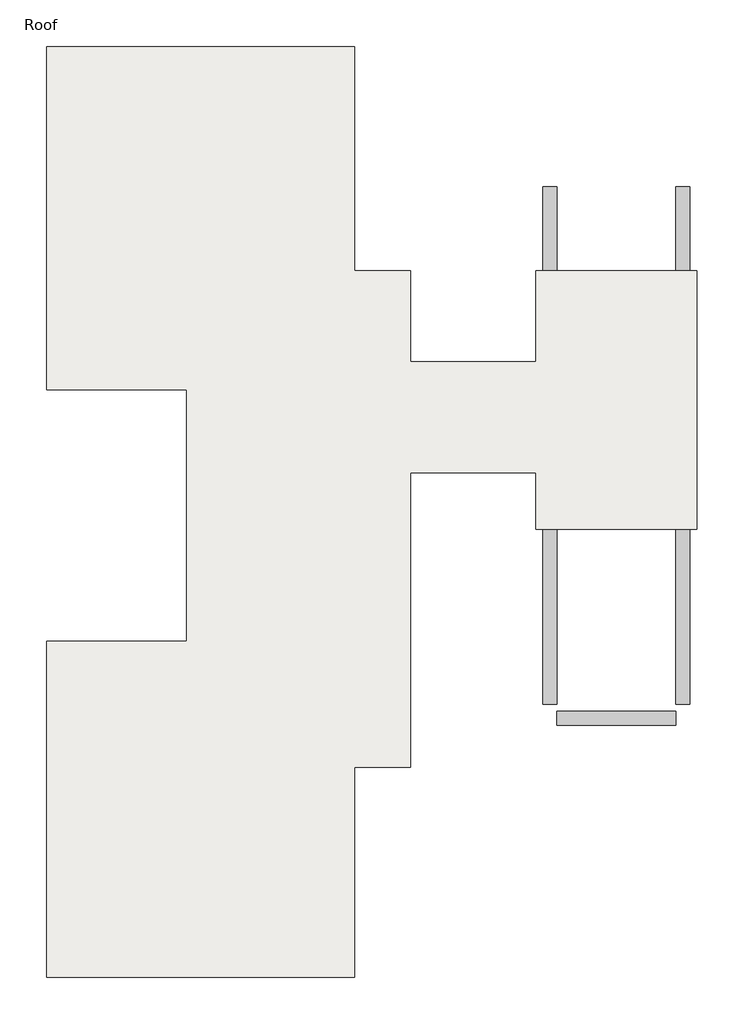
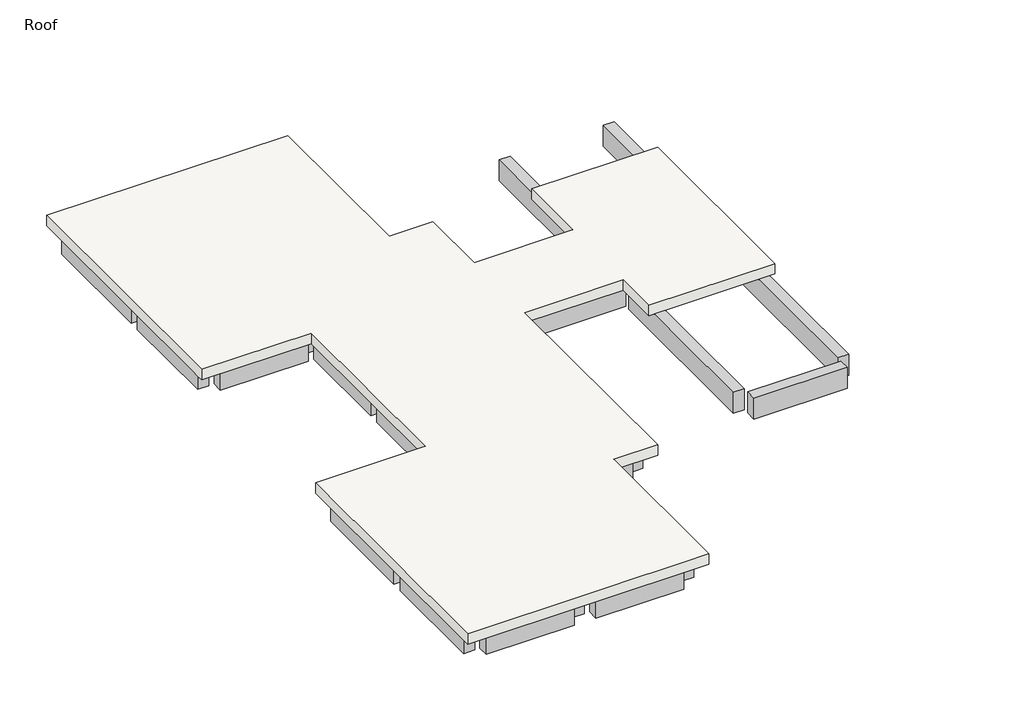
# One storey: 45 beams, 1 slab.
"""IFC4 building model written with IfcOpenShell, lengths in millimetres."""

import ifcopenshell
import ifcopenshell.guid

model = None  # the IFC model being written
_history = None  # IfcOwnerHistory: only IFC2X3 demands one
_inside = {}  # id of a spatial element -> (the spatial element, [elements in it])
_under = {}  # id of a project, library or spatial element -> (it, [spatial elements below it])
_declared = {}  # id of a project -> (the project, [libraries it declares])
_typed = {}  # id of a type object -> (the type object, [elements of that type])
_made_of = {}  # id of a material, layer set ... -> (it, [elements and type objects made of it])


def new_model(schema):
    """Start an empty IFC model of exactly this schema.

    Asked for "IFC4X3", IfcOpenShell would pick the latest addendum, in which some entities
    have other attributes; the version numbers below select the first issue.
    IFC2X3 requires an IfcOwnerHistory on every rooted entity: one is made here for all.
    """
    global model, _history
    if schema == "IFC4X3":
        model = ifcopenshell.file(schema_version=(4, 3, 0, 0))
    else:
        model = ifcopenshell.file(schema=schema)
    _inside.clear()
    _under.clear()
    _declared.clear()
    _typed.clear()
    _made_of.clear()
    _history = None
    if model.schema == "IFC2X3":
        org = make("IfcOrganization", Name="unknown")
        user = make(
            "IfcPersonAndOrganization",
            ThePerson=make("IfcPerson", FamilyName="unknown"),
            TheOrganization=org,
        )
        app = make(
            "IfcApplication",
            ApplicationDeveloper=org,
            Version="unknown",
            ApplicationFullName="unknown",
            ApplicationIdentifier="unknown",
        )
        _history = make(
            "IfcOwnerHistory",
            OwningUser=user,
            OwningApplication=app,
            ChangeAction="ADDED",
            CreationDate=0,
        )
    return model


def make(cls, **values):
    """One entity of the class cls with the attributes given. An attribute that is None is left unset."""
    return model.create_entity(
        cls, **{name: value for name, value in values.items() if value is not None}
    )


def rooted(cls, **values):
    """An entity with a GlobalId (a new one), such as an element, a storey or a relation."""
    return make(cls, GlobalId=ifcopenshell.guid.new(), OwnerHistory=_history, **values)


def si_unit(unit_type, name, prefix=None):
    """IfcSIUnit, for example si_unit("LENGTHUNIT", "METRE", prefix="MILLI")."""
    return make("IfcSIUnit", UnitType=unit_type, Prefix=prefix, Name=name)


def assignment(units):
    """IfcUnitAssignment: the units of a project."""
    return None if units is None else make("IfcUnitAssignment", Units=units)


def point(xyz):
    """IfcCartesianPoint."""
    return None if xyz is None else make("IfcCartesianPoint", Coordinates=xyz)


def direction(xyz):
    """IfcDirection."""
    return None if xyz is None else make("IfcDirection", DirectionRatios=xyz)


def frame(location, z_axis=None, x_axis=None):
    """IfcAxis2Placement3D, a coordinate frame: its origin and axes. An axis left out is left unset."""
    return make(
        "IfcAxis2Placement3D",
        Location=point(location),
        Axis=direction(z_axis),
        RefDirection=direction(x_axis),
    )


def origin():
    """The frame at (0, 0, 0) with its axes left unset."""
    return frame((0.0, 0.0, 0.0))


def place(relative_to, where):
    """IfcLocalPlacement: puts the frame where relative to a parent placement (None: the world)."""
    return make(
        "IfcLocalPlacement", PlacementRelTo=relative_to, RelativePlacement=where
    )


def context(
    kind, dimensions, precision=None, world=None, true_north=None, identifier=None
):
    """IfcGeometricRepresentationContext, for example the 3D "Model" context."""
    return make(
        "IfcGeometricRepresentationContext",
        ContextIdentifier=identifier,
        ContextType=kind,
        CoordinateSpaceDimension=dimensions,
        Precision=precision,
        WorldCoordinateSystem=world,
        TrueNorth=true_north,
    )


def project(units=None, contexts=None):
    """IfcProject with its units and contexts."""
    return rooted(
        "IfcProject",
        Name="project",
        RepresentationContexts=contexts,
        UnitsInContext=assignment(units),
    )


def spatial(cls, under=None, at=None, **own):
    """A site, building, storey or space (cls), placed at a placement, below another one or the project."""
    s = rooted(cls, ObjectPlacement=at, **own)
    if under is not None:
        _under.setdefault(under.id(), (under, []))[1].append(s)
    return s


def polyline(points):
    """IfcPolyline through the points."""
    return make("IfcPolyline", Points=[point(p) for p in points])


def outline(outer, holes=None, kind="AREA"):
    """IfcArbitraryClosedProfileDef: a profile drawn as a closed curve; with holes, ...WithVoids."""
    if holes is None:
        return make("IfcArbitraryClosedProfileDef", ProfileType=kind, OuterCurve=outer)
    return make(
        "IfcArbitraryProfileDefWithVoids",
        ProfileType=kind,
        OuterCurve=outer,
        InnerCurves=holes,
    )


def extrude(swept, where, along, depth):
    """IfcExtrudedAreaSolid: the profile swept, set in the frame where, extruded along a direction by depth."""
    return make(
        "IfcExtrudedAreaSolid",
        SweptArea=swept,
        Position=where,
        ExtrudedDirection=direction(along),
        Depth=depth,
    )


def faces_of(points, faces, orient=None, outer=None):
    """IfcFace entities. A face is a list of loops; a loop is a list of indices into points, from 0.

    orient and outer hold one flag for each loop. By default every Orientation is true, the
    first loop of a face is its IfcFaceOuterBound and the others are IfcFaceBound.
    """
    made = []
    for i, loops in enumerate(faces):
        bounds = []
        for j, loop in enumerate(loops):
            is_outer = j == 0 if outer is None else outer[i][j]
            bounds.append(
                make(
                    "IfcFaceOuterBound" if is_outer else "IfcFaceBound",
                    Bound=make("IfcPolyLoop", Polygon=[points[k] for k in loop]),
                    Orientation=True if orient is None else orient[i][j],
                )
            )
        made.append(make("IfcFace", Bounds=bounds))
    return made


def faceted_brep(points, faces, orient=None, outer=None, voids=None):
    """IfcFacetedBrep: a solid bounded by flat faces; with voids (closed shells), ...WithVoids."""
    shared = [point(p) for p in points]
    hull = make("IfcClosedShell", CfsFaces=faces_of(shared, faces, orient, outer))
    if voids is None:
        return make("IfcFacetedBrep", Outer=hull)
    return make(
        "IfcFacetedBrepWithVoids",
        Outer=hull,
        Voids=[
            make(cls, CfsFaces=faces_of(shared, fs, o, b)) for cls, fs, o, b in voids
        ],
    )


def shape(context_of_items, identifier, shape_type, items):
    """IfcShapeRepresentation: the items that make up one representation, for example the "Body"."""
    return make(
        "IfcShapeRepresentation",
        ContextOfItems=context_of_items,
        RepresentationIdentifier=identifier,
        RepresentationType=shape_type,
        Items=items,
    )


def made_of(thing, what):
    """Note that an element or type object is made of a material, layer set ...; save() writes the relation."""
    if what is not None:
        _made_of.setdefault(what.id(), (what, []))[1].append(thing)
    return thing


def element(
    cls,
    number,
    at=None,
    inside=None,
    cuts=None,
    type_object=None,
    material=None,
    context=None,
    identifier="Body",
    shape_type=None,
    held_by="IfcProductDefinitionShape",
    body=None,
    shapes=None,
    **own,
):
    """One element of the class cls, such as IfcWall. Its Tag is "e" and its number.

    at: its placement. inside: the storey or other place that contains it. cuts: it is an
    opening in that element (IfcRelVoidsElement). A single representation is given by context,
    identifier, shape_type and body (its items); several are given by shapes. held_by: the class
    of the entity that holds the representations. save() writes the other relations.
    """
    e = rooted(cls, Tag="e%d" % number, ObjectPlacement=at, **own)
    if body is not None:
        shapes = [shape(context, identifier, shape_type, body)]
    if shapes is not None:
        e.Representation = make(held_by, Representations=shapes)
    if inside is not None:
        _inside.setdefault(inside.id(), (inside, []))[1].append(e)
    if cuts is not None:
        rooted(
            "IfcRelVoidsElement", RelatingBuildingElement=cuts, RelatedOpeningElement=e
        )
    if type_object is not None:
        _typed.setdefault(type_object.id(), (type_object, []))[1].append(e)
    return made_of(e, material)


def aggregate(whole, parts):
    """IfcRelAggregates: a whole, such as a stair, and the parts it consists of."""
    return rooted("IfcRelAggregates", RelatingObject=whole, RelatedObjects=parts)


def save(model, path):
    """Write the relations noted so far, then the file.

    IfcRelAggregates (storeys below a building ...), IfcRelContainedInSpatialStructure (elements
    in a storey), IfcRelDefinesByType, IfcRelAssociatesMaterial and IfcRelDeclares: one each for
    every whole, place, type object, material and project.
    """
    for whole, parts in _under.values():
        aggregate(whole, parts)
    for where, things in _inside.values():
        rooted(
            "IfcRelContainedInSpatialStructure",
            RelatedElements=things,
            RelatingStructure=where,
        )
    for kind, things in _typed.values():
        rooted("IfcRelDefinesByType", RelatedObjects=things, RelatingType=kind)
    for what, things in _made_of.values():
        rooted("IfcRelAssociatesMaterial", RelatedObjects=things, RelatingMaterial=what)
    for by, libraries in _declared.values():
        rooted("IfcRelDeclares", RelatingContext=by, RelatedDefinitions=libraries)
    model.write(path)


model = new_model("IFC4")

# Units and contexts
model_context = context("Model", 3, world=origin())
ifc_project = project(units=[si_unit("LENGTHUNIT", "METRE", prefix="MILLI")], contexts=[model_context])

# Site, building, storey
site = spatial("IfcSite", under=ifc_project)
building = spatial("IfcBuilding", under=site)
storey = spatial("IfcBuildingStorey", under=building, Name="Roof", Elevation=7620.0)

# Beams
placement = place(None, origin())
element("IfcBeam", 1, ObjectType="Concrete-Rectangular Beam : 12 x 24", at=placement, inside=storey, context=model_context, shape_type="SweptSolid", body=[
    extrude(outline(polyline([(-15067.9554735, 14342.1867088), (-15067.9554735, 14646.9867088), (-12629.5554735, 14646.9867088), (-12629.5554735, 14342.1867088), (-15067.9554735, 14342.1867088)])), frame((0.0, 0.0, 6705.6), z_axis=(0.0, 0.0, 1.0), x_axis=(1.0, 0.0, 0.0)), (0.0, 0.0, 1.0), 609.6),
])
element("IfcBeam", 2, ObjectType="Concrete-Rectangular Beam : 12 x 24", at=placement, inside=storey, context=model_context, shape_type="SweptSolid", body=[
    extrude(outline(polyline([(-12019.9554735, 14342.1867088), (-12019.9554735, 14646.9867088), (-9581.5554735, 14646.9867088), (-9581.5554735, 14342.1867088), (-12019.9554735, 14342.1867088)])), frame((0.0, 0.0, 6705.6), z_axis=(0.0, 0.0, 1.0), x_axis=(1.0, 0.0, 0.0)), (0.0, 0.0, 1.0), 609.6),
])
element("IfcBeam", 3, ObjectType="Concrete-Rectangular Beam : 12 x 24", at=placement, inside=storey, context=model_context, shape_type="SweptSolid", body=[
    extrude(outline(polyline([(-9429.1554735, 14342.1867088), (-9124.3554735, 14342.1867088), (-9124.3554735, 10989.3867088), (-9429.1554735, 10989.3867088), (-9429.1554735, 14342.1867088)])), frame((0.0, 0.0, 6705.6), z_axis=(0.0, 0.0, 1.0), x_axis=(1.0, 0.0, 0.0)), (0.0, 0.0, 1.0), 609.6),
])
element("IfcBeam", 4, ObjectType="Concrete-Rectangular Beam : 12 x 24", at=placement, inside=storey, context=model_context, shape_type="SweptSolid", body=[
    extrude(outline(polyline([(-7905.1554735, 7788.9867088), (-8209.9554735, 7788.9867088), (-8209.9554735, 9465.3867088), (-7905.1554735, 9465.3867088), (-7905.1554735, 7788.9867088)])), frame((0.0, 0.0, 6705.6), z_axis=(0.0, 0.0, 1.0), x_axis=(1.0, 0.0, 0.0)), (0.0, 0.0, 1.0), 609.6),
])
element("IfcBeam", 5, ObjectType="Concrete-Rectangular Beam : 12 x 24", at=placement, inside=storey, context=model_context, shape_type="Brep", body=[
    faceted_brep([(-9429.1554735, 9770.1867088, 7315.2), (-9429.1554735, 9465.3867088, 7315.2), (-8362.3554735, 9465.3867088, 7315.2), (-8362.3554735, 9770.1867088, 7315.2), (-9124.3554735, 9770.1867088, 7315.2), (-9429.1554735, 9770.1867088, 6705.6), (-8362.3554735, 9770.1867088, 6705.6), (-9124.3554735, 9770.1867088, 6705.6), (-9429.1554735, 9465.3867088, 6705.6), (-8362.3554735, 9465.3867088, 6705.6)], [[[0, 1, 2, 3, 4]], [[5, 0, 4, 3, 6, 7]], [[8, 5, 7, 6, 9]], [[1, 8, 9, 2]], [[3, 2, 9, 6]], [[1, 0, 5, 8]]]),
])
element("IfcBeam", 6, ObjectType="Concrete-Rectangular Beam : 12 x 24", at=placement, inside=storey, context=model_context, shape_type="Brep", body=[
    faceted_brep([(-7905.1554735, 7484.1867088, 7315.2), (-8209.9554735, 7484.1867088, 7315.2), (-8209.9554735, 4740.9867088, 7315.2), (-7905.1554735, 4740.9867088, 7315.2), (-7905.1554735, 5655.3867088, 7315.2), (-7905.1554735, 5960.1867088, 7315.2), (-8209.9554735, 7484.1867088, 6705.6), (-8209.9554735, 4740.9867088, 6705.6), (-7905.1554735, 7484.1867088, 6705.6), (-7905.1554735, 5960.1867088, 6705.6), (-7905.1554735, 5655.3867088, 6705.6), (-7905.1554735, 4740.9867088, 6705.6)], [[[0, 1, 2, 3, 4, 5]], [[1, 6, 7, 2]], [[6, 8, 9, 10, 11, 7]], [[8, 0, 5, 4, 3, 11, 10, 9]], [[6, 1, 0, 8]], [[3, 2, 7, 11]]]),
])
element("IfcBeam", 7, ObjectType="Concrete-Rectangular Beam : 12 x 24", at=placement, inside=storey, context=model_context, shape_type="SweptSolid", body=[
    extrude(outline(polyline([(-8209.9554735, 4436.1867088), (-7905.1554735, 4436.1867088), (-7905.1554735, 1692.9867088), (-8209.9554735, 1692.9867088), (-8209.9554735, 4436.1867088)])), frame((0.0, 0.0, 6705.6), z_axis=(0.0, 0.0, 1.0), x_axis=(1.0, 0.0, 0.0)), (0.0, 0.0, 1.0), 609.6),
])
element("IfcBeam", 8, ObjectType="Concrete-Rectangular Beam : 12 x 24", at=placement, inside=storey, context=model_context, shape_type="SweptSolid", body=[
    extrude(outline(polyline([(-8209.9554735, 1388.1867088), (-7905.1554735, 1388.1867088), (-7905.1554735, -440.6132912), (-8209.9554735, -440.6132912), (-8209.9554735, 1388.1867088)])), frame((0.0, 0.0, 6705.6), z_axis=(0.0, 0.0, 1.0), x_axis=(1.0, 0.0, 0.0)), (0.0, 0.0, 1.0), 609.6),
])
element("IfcBeam", 9, ObjectType="Concrete-Rectangular Beam : 12 x 24", at=placement, inside=storey, context=model_context, shape_type="Brep", body=[
    faceted_brep([(-9429.1554735, -440.6132912, 7315.2), (-9429.1554735, -745.4132912, 7315.2), (-9124.3554735, -745.4132912, 7315.2), (-8362.3554735, -745.4132912, 7315.2), (-8362.3554735, -440.6132912, 7315.2), (-9429.1554735, -440.6132912, 6705.6), (-8362.3554735, -440.6132912, 6705.6), (-9429.1554735, -745.4132912, 6705.6), (-8362.3554735, -745.4132912, 6705.6), (-9124.3554735, -745.4132912, 6705.6)], [[[0, 1, 2, 3, 4]], [[5, 0, 4, 6]], [[7, 5, 6, 8, 9]], [[1, 7, 9, 8, 3, 2]], [[4, 3, 8, 6]], [[1, 0, 5, 7]]]),
])
element("IfcBeam", 10, ObjectType="Concrete-Rectangular Beam : 12 x 24", at=placement, inside=storey, context=model_context, shape_type="SweptSolid", body=[
    extrude(outline(polyline([(-9429.1554735, -745.4132912), (-9124.3554735, -745.4132912), (-9124.3554735, -1659.8132912), (-9429.1554735, -1659.8132912), (-9429.1554735, -745.4132912)])), frame((0.0, 0.0, 6705.6), z_axis=(0.0, 0.0, 1.0), x_axis=(1.0, 0.0, 0.0)), (0.0, 0.0, 1.0), 609.6),
])
element("IfcBeam", 11, ObjectType="Concrete-Rectangular Beam : 12 x 24", at=placement, inside=storey, context=model_context, shape_type="SweptSolid", body=[
    extrude(outline(polyline([(-9429.1554735, -1964.6132912), (-9124.3554735, -1964.6132912), (-9124.3554735, -5012.6132912), (-9429.1554735, -5012.6132912), (-9429.1554735, -1964.6132912)])), frame((0.0, 0.0, 6705.6), z_axis=(0.0, 0.0, 1.0), x_axis=(1.0, 0.0, 0.0)), (0.0, 0.0, 1.0), 609.6),
])
element("IfcBeam", 12, ObjectType="Concrete-Rectangular Beam : 12 x 24", at=placement, inside=storey, context=model_context, shape_type="SweptSolid", body=[
    extrude(outline(polyline([(-12019.9554735, -5317.4132912), (-12019.9554735, -5012.6132912), (-9581.5554735, -5012.6132912), (-9581.5554735, -5317.4132912), (-12019.9554735, -5317.4132912)])), frame((0.0, 0.0, 6705.6), z_axis=(0.0, 0.0, 1.0), x_axis=(1.0, 0.0, 0.0)), (0.0, 0.0, 1.0), 609.6),
])
element("IfcBeam", 13, ObjectType="Concrete-Rectangular Beam : 12 x 24", at=placement, inside=storey, context=model_context, shape_type="SweptSolid", body=[
    extrude(outline(polyline([(-12629.5554735, -5012.6132912), (-12629.5554735, -5317.4132912), (-15067.9554735, -5317.4132912), (-15067.9554735, -5012.6132912), (-12629.5554735, -5012.6132912)])), frame((0.0, 0.0, 6705.6), z_axis=(0.0, 0.0, 1.0), x_axis=(1.0, 0.0, 0.0)), (0.0, 0.0, 1.0), 609.6),
])
element("IfcBeam", 14, ObjectType="Concrete-Rectangular Beam : 12 x 24", at=placement, inside=storey, context=model_context, shape_type="SweptSolid", body=[
    extrude(outline(polyline([(-15220.3554735, -5012.6132912), (-15525.1554735, -5012.6132912), (-15525.1554735, -1964.6132912), (-15220.3554735, -1964.6132912), (-15220.3554735, -5012.6132912)])), frame((0.0, 0.0, 6705.6), z_axis=(0.0, 0.0, 1.0), x_axis=(1.0, 0.0, 0.0)), (0.0, 0.0, 1.0), 609.6),
])
element("IfcBeam", 15, ObjectType="Concrete-Rectangular Beam : 12 x 24", at=placement, inside=storey, context=model_context, shape_type="SweptSolid", body=[
    extrude(outline(polyline([(-15220.3554735, -1659.8132912), (-15525.1554735, -1659.8132912), (-15525.1554735, 1388.1867088), (-15220.3554735, 1388.1867088), (-15220.3554735, -1659.8132912)])), frame((0.0, 0.0, 6705.6), z_axis=(0.0, 0.0, 1.0), x_axis=(1.0, 0.0, 0.0)), (0.0, 0.0, 1.0), 609.6),
])
element("IfcBeam", 16, ObjectType="Concrete-Rectangular Beam : 12 x 24", at=placement, inside=storey, context=model_context, shape_type="SweptSolid", body=[
    extrude(outline(polyline([(-15525.1554735, 14342.1867088), (-15220.3554735, 14342.1867088), (-15220.3554735, 10989.3867088), (-15525.1554735, 10989.3867088), (-15525.1554735, 14342.1867088)])), frame((0.0, 0.0, 6705.6), z_axis=(0.0, 0.0, 1.0), x_axis=(1.0, 0.0, 0.0)), (0.0, 0.0, 1.0), 609.6),
])
element("IfcBeam", 17, ObjectType="Concrete-Rectangular Beam : 12 x 24", at=placement, inside=storey, context=model_context, shape_type="SweptSolid", body=[
    extrude(outline(polyline([(-12477.1554735, 14342.1867088), (-12172.3554735, 14342.1867088), (-12172.3554735, 10989.3867088), (-12477.1554735, 10989.3867088), (-12477.1554735, 14342.1867088)])), frame((0.0, 0.0, 6705.6), z_axis=(0.0, 0.0, 1.0), x_axis=(1.0, 0.0, 0.0)), (0.0, 0.0, 1.0), 609.6),
])
element("IfcBeam", 18, ObjectType="Concrete-Rectangular Beam : 12 x 24", at=placement, inside=storey, context=model_context, shape_type="SweptSolid", body=[
    extrude(outline(polyline([(-15067.9554735, 10684.5867088), (-15067.9554735, 10989.3867088), (-12629.5554735, 10989.3867088), (-12629.5554735, 10684.5867088), (-15067.9554735, 10684.5867088)])), frame((0.0, 0.0, 6705.6), z_axis=(0.0, 0.0, 1.0), x_axis=(1.0, 0.0, 0.0)), (0.0, 0.0, 1.0), 609.6),
])
element("IfcBeam", 19, ObjectType="Concrete-Rectangular Beam : 12 x 24", at=placement, inside=storey, context=model_context, shape_type="SweptSolid", body=[
    extrude(outline(polyline([(-12477.1554735, 10836.9867088), (-12172.3554735, 10836.9867088), (-12172.3554735, 7788.9867088), (-12477.1554735, 7788.9867088), (-12477.1554735, 10836.9867088)])), frame((0.0, 0.0, 6705.6), z_axis=(0.0, 0.0, 1.0), x_axis=(1.0, 0.0, 0.0)), (0.0, 0.0, 1.0), 609.6),
])
element("IfcBeam", 20, ObjectType="Concrete-Rectangular Beam : 12 x 24", at=placement, inside=storey, context=model_context, shape_type="SweptSolid", body=[
    extrude(outline(polyline([(-12477.1554735, 7484.1867088), (-12172.3554735, 7484.1867088), (-12172.3554735, 4740.9867088), (-12477.1554735, 4740.9867088), (-12477.1554735, 7484.1867088)])), frame((0.0, 0.0, 6705.6), z_axis=(0.0, 0.0, 1.0), x_axis=(1.0, 0.0, 0.0)), (0.0, 0.0, 1.0), 609.6),
])
element("IfcBeam", 21, ObjectType="Concrete-Rectangular Beam : 12 x 24", at=placement, inside=storey, context=model_context, shape_type="SweptSolid", body=[
    extrude(outline(polyline([(-12477.1554735, 4436.1867088), (-12172.3554735, 4436.1867088), (-12172.3554735, 1692.9867088), (-12477.1554735, 1692.9867088), (-12477.1554735, 4436.1867088)])), frame((0.0, 0.0, 6705.6), z_axis=(0.0, 0.0, 1.0), x_axis=(1.0, 0.0, 0.0)), (0.0, 0.0, 1.0), 609.6),
])
element("IfcBeam", 22, ObjectType="Concrete-Rectangular Beam : 12 x 24", at=placement, inside=storey, context=model_context, shape_type="SweptSolid", body=[
    extrude(outline(polyline([(-12477.1554735, 1388.1867088), (-12172.3554735, 1388.1867088), (-12172.3554735, -1659.8132912), (-12477.1554735, -1659.8132912), (-12477.1554735, 1388.1867088)])), frame((0.0, 0.0, 6705.6), z_axis=(0.0, 0.0, 1.0), x_axis=(1.0, 0.0, 0.0)), (0.0, 0.0, 1.0), 609.6),
])
element("IfcBeam", 23, ObjectType="Concrete-Rectangular Beam : 12 x 24", at=placement, inside=storey, context=model_context, shape_type="SweptSolid", body=[
    extrude(outline(polyline([(-12172.3554735, -5012.6132912), (-12477.1554735, -5012.6132912), (-12477.1554735, -1964.6132912), (-12172.3554735, -1964.6132912), (-12172.3554735, -5012.6132912)])), frame((0.0, 0.0, 6705.6), z_axis=(0.0, 0.0, 1.0), x_axis=(1.0, 0.0, 0.0)), (0.0, 0.0, 1.0), 609.6),
])
element("IfcBeam", 24, ObjectType="Concrete-Rectangular Beam : 12 x 24", at=placement, inside=storey, context=model_context, shape_type="SweptSolid", body=[
    extrude(outline(polyline([(-15525.1554735, 10684.5867088), (-15220.3554735, 10684.5867088), (-15220.3554735, 7788.9867088), (-15525.1554735, 7788.9867088), (-15525.1554735, 10684.5867088)])), frame((0.0, 0.0, 6705.6), z_axis=(0.0, 0.0, 1.0), x_axis=(1.0, 0.0, 0.0)), (0.0, 0.0, 1.0), 609.6),
])
element("IfcBeam", 25, ObjectType="Concrete-Rectangular Beam : 12 x 24", at=placement, inside=storey, context=model_context, shape_type="SweptSolid", body=[
    extrude(outline(polyline([(-15067.9554735, 7484.1867088), (-15067.9554735, 7788.9867088), (-12629.5554735, 7788.9867088), (-12629.5554735, 7484.1867088), (-15067.9554735, 7484.1867088)])), frame((0.0, 0.0, 6705.6), z_axis=(0.0, 0.0, 1.0), x_axis=(1.0, 0.0, 0.0)), (0.0, 0.0, 1.0), 609.6),
])
element("IfcBeam", 26, ObjectType="Concrete-Rectangular Beam : 12 x 24", at=placement, inside=storey, context=model_context, shape_type="SweptSolid", body=[
    extrude(outline(polyline([(-12019.9554735, 1388.1867088), (-12019.9554735, 1692.9867088), (-8362.3554735, 1692.9867088), (-8362.3554735, 1388.1867088), (-12019.9554735, 1388.1867088)])), frame((0.0, 0.0, 6705.6), z_axis=(0.0, 0.0, 1.0), x_axis=(1.0, 0.0, 0.0)), (0.0, 0.0, 1.0), 609.6),
])
element("IfcBeam", 27, ObjectType="Concrete-Rectangular Beam : 12 x 24", at=placement, inside=storey, context=model_context, shape_type="SweptSolid", body=[
    extrude(outline(polyline([(-4552.3554735, 5655.3867088), (-4552.3554735, 5960.1867088), (-1961.5554735, 5960.1867088), (-1961.5554735, 5655.3867088), (-4552.3554735, 5655.3867088)])), frame((0.0, 0.0, 6705.6), z_axis=(0.0, 0.0, 1.0), x_axis=(1.0, 0.0, 0.0)), (0.0, 0.0, 1.0), 609.6),
])
element("IfcBeam", 28, ObjectType="Concrete-Rectangular Beam : 12 x 24", at=placement, inside=storey, context=model_context, shape_type="SweptSolid", body=[
    extrude(outline(polyline([(-4857.1554735, 7788.9867088), (-4857.1554735, 7484.1867088), (-7752.7554735, 7484.1867088), (-7752.7554735, 7788.9867088), (-4857.1554735, 7788.9867088)])), frame((0.0, 0.0, 6705.6), z_axis=(0.0, 0.0, 1.0), x_axis=(1.0, 0.0, 0.0)), (0.0, 0.0, 1.0), 609.6),
])
element("IfcBeam", 29, ObjectType="Concrete-Rectangular Beam : 12 x 24", at=placement, inside=storey, context=model_context, shape_type="SweptSolid", body=[
    extrude(outline(polyline([(-4857.1554735, 5960.1867088), (-4857.1554735, 5655.3867088), (-7905.1554735, 5655.3867088), (-7905.1554735, 5960.1867088), (-4857.1554735, 5960.1867088)])), frame((0.0, 0.0, 6705.6), z_axis=(0.0, 0.0, 1.0), x_axis=(1.0, 0.0, 0.0)), (0.0, 0.0, 1.0), 609.6),
])
element("IfcBeam", 30, ObjectType="Concrete-Rectangular Beam : 12 x 24", at=placement, inside=storey, context=model_context, shape_type="SweptSolid", body=[
    extrude(outline(polyline([(-4552.3554735, 7484.1867088), (-4552.3554735, 7788.9867088), (-1961.5554735, 7788.9867088), (-1961.5554735, 7484.1867088), (-4552.3554735, 7484.1867088)])), frame((0.0, 0.0, 6705.6), z_axis=(0.0, 0.0, 1.0), x_axis=(1.0, 0.0, 0.0)), (0.0, 0.0, 1.0), 609.6),
])
element("IfcBeam", 31, ObjectType="Concrete-Rectangular Beam : 12 x 24", at=placement, inside=storey, context=model_context, shape_type="SweptSolid", body=[
    extrude(outline(polyline([(-12477.1554735, 10684.5867088), (-12172.3554735, 10684.5867088), (-12172.3554735, 7788.9867088), (-12477.1554735, 7788.9867088), (-12477.1554735, 10684.5867088)])), frame((0.0, 0.0, 6705.6), z_axis=(0.0, 0.0, 1.0), x_axis=(1.0, 0.0, 0.0)), (0.0, 0.0, 1.0), 609.6),
])
element("IfcBeam", 32, ObjectType="Concrete-Rectangular Beam : 12 x 24", at=placement, inside=storey, context=model_context, shape_type="SweptSolid", body=[
    extrude(outline(polyline([(-12019.9554735, 10684.5867088), (-12019.9554735, 10989.3867088), (-9581.5554735, 10989.3867088), (-9581.5554735, 10684.5867088), (-12019.9554735, 10684.5867088)])), frame((0.0, 0.0, 6705.6), z_axis=(0.0, 0.0, 1.0), x_axis=(1.0, 0.0, 0.0)), (0.0, 0.0, 1.0), 609.6),
])
element("IfcBeam", 33, ObjectType="Concrete-Rectangular Beam : 12 x 24", at=placement, inside=storey, context=model_context, shape_type="SweptSolid", body=[
    extrude(outline(polyline([(-12629.5554735, -1659.8132912), (-12629.5554735, -1964.6132912), (-15067.9554735, -1964.6132912), (-15067.9554735, -1659.8132912), (-12629.5554735, -1659.8132912)])), frame((0.0, 0.0, 6705.6), z_axis=(0.0, 0.0, 1.0), x_axis=(1.0, 0.0, 0.0)), (0.0, 0.0, 1.0), 609.6),
])
element("IfcBeam", 34, ObjectType="Concrete-Rectangular Beam : 12 x 24", at=placement, inside=storey, context=model_context, shape_type="SweptSolid", body=[
    extrude(outline(polyline([(-12629.5554735, 1692.9867088), (-12629.5554735, 1388.1867088), (-15067.9554735, 1388.1867088), (-15067.9554735, 1692.9867088), (-12629.5554735, 1692.9867088)])), frame((0.0, 0.0, 6705.6), z_axis=(0.0, 0.0, 1.0), x_axis=(1.0, 0.0, 0.0)), (0.0, 0.0, 1.0), 609.6),
])
element("IfcBeam", 35, ObjectType="Concrete-Rectangular Beam : 12 x 24", at=placement, inside=storey, context=model_context, shape_type="SweptSolid", body=[
    extrude(outline(polyline([(-12019.9554735, -1964.6132912), (-12019.9554735, -1659.8132912), (-9581.5554735, -1659.8132912), (-9581.5554735, -1964.6132912), (-12019.9554735, -1964.6132912)])), frame((0.0, 0.0, 6705.6), z_axis=(0.0, 0.0, 1.0), x_axis=(1.0, 0.0, 0.0)), (0.0, 0.0, 1.0), 609.6),
])
element("IfcBeam", 36, ObjectType="Concrete-Rectangular Beam : 12 x 24", at=placement, inside=storey, context=model_context, shape_type="SweptSolid", body=[
    extrude(outline(polyline([(-9124.3554735, 9770.1867088), (-9429.1554735, 9770.1867088), (-9429.1554735, 10684.5867088), (-9124.3554735, 10684.5867088), (-9124.3554735, 9770.1867088)])), frame((0.0, 0.0, 6705.6), z_axis=(0.0, 0.0, 1.0), x_axis=(1.0, 0.0, 0.0)), (0.0, 0.0, 1.0), 609.6),
])
element("IfcBeam", 37, ObjectType="Concrete-Rectangular Beam : 12 x 24", at=placement, inside=storey, context=model_context, shape_type="SweptSolid", body=[
    extrude(outline(polyline([(-8362.3554735, 7788.9867088), (-8362.3554735, 7484.1867088), (-12019.9554735, 7484.1867088), (-12019.9554735, 7788.9867088), (-8362.3554735, 7788.9867088)])), frame((0.0, 0.0, 6705.6), z_axis=(0.0, 0.0, 1.0), x_axis=(1.0, 0.0, 0.0)), (0.0, 0.0, 1.0), 609.6),
])
element("IfcBeam", 38, ObjectType="Concrete-Rectangular Beam : 12 x 24", at=placement, inside=storey, context=model_context, shape_type="SweptSolid", body=[
    extrude(outline(polyline([(-12019.9554735, 4436.1867088), (-12019.9554735, 4740.9867088), (-8362.3554735, 4740.9867088), (-8362.3554735, 4436.1867088), (-12019.9554735, 4436.1867088)])), frame((0.0, 0.0, 6705.6), z_axis=(0.0, 0.0, 1.0), x_axis=(1.0, 0.0, 0.0)), (0.0, 0.0, 1.0), 609.6),
])
element("IfcBeam", 39, ObjectType="Concrete-Rectangular Beam : 12 x 24", at=placement, inside=storey, context=model_context, shape_type="SweptSolid", body=[
    extrude(outline(polyline([(-4857.1554735, 5502.9867088), (-4552.3554735, 5502.9867088), (-4552.3554735, 473.7867088), (-4857.1554735, 473.7867088), (-4857.1554735, 5502.9867088)])), frame((0.0, 0.0, 6705.6), z_axis=(0.0, 0.0, 1.0), x_axis=(1.0, 0.0, 0.0)), (0.0, 0.0, 1.0), 609.6),
])
element("IfcBeam", 40, ObjectType="Concrete-Rectangular Beam : 12 x 24", at=placement, inside=storey, context=model_context, shape_type="SweptSolid", body=[
    extrude(outline(polyline([(-4552.3554735, 16.5867088), (-4552.3554735, 321.3867088), (-1961.5554735, 321.3867088), (-1961.5554735, 16.5867088), (-4552.3554735, 16.5867088)])), frame((0.0, 0.0, 6705.6), z_axis=(0.0, 0.0, 1.0), x_axis=(1.0, 0.0, 0.0)), (0.0, 0.0, 1.0), 609.6),
])
element("IfcBeam", 41, ObjectType="Concrete-Rectangular Beam : 12 x 24", at=placement, inside=storey, context=model_context, shape_type="SweptSolid", body=[
    extrude(outline(polyline([(-1656.7554735, 473.7867088), (-1961.5554735, 473.7867088), (-1961.5554735, 5502.9867088), (-1656.7554735, 5502.9867088), (-1656.7554735, 473.7867088)])), frame((0.0, 0.0, 6705.6), z_axis=(0.0, 0.0, 1.0), x_axis=(1.0, 0.0, 0.0)), (0.0, 0.0, 1.0), 609.6),
])
element("IfcBeam", 42, ObjectType="Concrete-Rectangular Beam : 12 x 24", at=placement, inside=storey, context=model_context, shape_type="SweptSolid", body=[
    extrude(outline(polyline([(-4857.1554735, 11751.3867088), (-4552.3554735, 11751.3867088), (-4552.3554735, 7941.3867088), (-4857.1554735, 7941.3867088), (-4857.1554735, 11751.3867088)])), frame((0.0, 0.0, 6705.6), z_axis=(0.0, 0.0, 1.0), x_axis=(1.0, 0.0, 0.0)), (0.0, 0.0, 1.0), 609.6),
])
element("IfcBeam", 43, ObjectType="Concrete-Rectangular Beam : 12 x 24", at=placement, inside=storey, context=model_context, shape_type="SweptSolid", body=[
    extrude(outline(polyline([(-1961.5554735, 11751.3867088), (-1656.7554735, 11751.3867088), (-1656.7554735, 7941.3867088), (-1961.5554735, 7941.3867088), (-1961.5554735, 11751.3867088)])), frame((0.0, 0.0, 6705.6), z_axis=(0.0, 0.0, 1.0), x_axis=(1.0, 0.0, 0.0)), (0.0, 0.0, 1.0), 609.6),
])
element("IfcBeam", 44, ObjectType="Concrete-Rectangular Beam : 12 x 24", at=placement, inside=storey, context=model_context, shape_type="SweptSolid", body=[
    extrude(outline(polyline([(-4857.1554735, 7331.7867088), (-4552.3554735, 7331.7867088), (-4552.3554735, 6112.5867088), (-4857.1554735, 6112.5867088), (-4857.1554735, 7331.7867088)])), frame((0.0, 0.0, 6705.6), z_axis=(0.0, 0.0, 1.0), x_axis=(1.0, 0.0, 0.0)), (0.0, 0.0, 1.0), 609.6),
])
element("IfcBeam", 45, ObjectType="Concrete-Rectangular Beam : 12 x 24", at=placement, inside=storey, context=model_context, shape_type="SweptSolid", body=[
    extrude(outline(polyline([(-1961.5554735, 7331.7867088), (-1656.7554735, 7331.7867088), (-1656.7554735, 6112.5867088), (-1961.5554735, 6112.5867088), (-1961.5554735, 7331.7867088)])), frame((0.0, 0.0, 6705.6), z_axis=(0.0, 0.0, 1.0), x_axis=(1.0, 0.0, 0.0)), (0.0, 0.0, 1.0), 609.6),
])

# Slab
element("IfcSlab", 46, ObjectType="Generic - 12\"", at=placement, inside=storey, context=model_context, shape_type="Brep", body=[
    faceted_brep([(-8971.9554735, 14799.3867088, 7315.2), (-8971.9554735, 14646.9867088, 7315.2), (-8971.9554735, 14342.1867088, 7315.2), (-8971.9554735, 10989.3867088, 7315.2), (-8971.9554735, 10684.5867088, 7315.2), (-8971.9554735, 9922.5867088, 7315.2), (-7752.7554735, 9922.5867088, 7315.2), (-7752.7554735, 9770.1867088, 7315.2), (-7752.7554735, 9465.3867088, 7315.2), (-7752.7554735, 7941.3867088, 7315.2), (-5009.5554735, 7941.3867088, 7315.2), (-5009.5554735, 9922.5867088, 7315.2), (-1504.3554735, 9922.5867088, 7315.2), (-1504.3554735, 4283.7867088, 7315.2), (-5009.5554735, 4283.7867088, 7315.2), (-5009.5554735, 5516.5265407, 7315.2), (-7752.7554735, 5516.5265407, 7315.2), (-7752.7554735, 4740.9867088, 7315.2), (-7752.7554735, 4436.1867088, 7315.2), (-7752.7554735, 1692.9867088, 7315.2), (-7752.7554735, 1388.1867088, 7315.2), (-7752.7554735, -440.6132912, 7315.2), (-7752.7554735, -745.4132912, 7315.2), (-7752.7554735, -897.8132912, 7315.2), (-8971.9554735, -897.8132912, 7315.2), (-8971.9554735, -1659.8132912, 7315.2), (-8971.9554735, -1964.6132912, 7315.2), (-8971.9554735, -5012.6132912, 7315.2), (-8971.9554735, -5317.4132912, 7315.2), (-8971.9554735, -5469.8132912, 7315.2), (-15677.5554735, -5469.8132912, 7315.2), (-15677.5554735, -5317.4132912, 7315.2), (-15677.5554735, -5012.6132912, 7315.2), (-15677.5554735, -1964.6132912, 7315.2), (-15677.5554735, -1659.8132912, 7315.2), (-15677.5554735, 1388.1867088, 7315.2), (-15677.5554735, 1692.9867088, 7315.2), (-15677.5554735, 1845.3867088, 7315.2), (-12629.5554735, 1845.3867088, 7315.2), (-12629.5554735, 4436.1867088, 7315.2), (-12629.5554735, 4740.9867088, 7315.2), (-12629.5554735, 7331.7867088, 7315.2), (-15677.5554735, 7331.7867088, 7315.2), (-15677.5554735, 7484.1867088, 7315.2), (-15677.5554735, 7788.9867088, 7315.2), (-15677.5554735, 10684.5867088, 7315.2), (-15677.5554735, 10989.3867088, 7315.2), (-15677.5554735, 14342.1867088, 7315.2), (-15677.5554735, 14646.9867088, 7315.2), (-15677.5554735, 14799.3867088, 7315.2), (-8971.9554735, 14799.3867088, 7620.0), (-15677.5554735, 14799.3867088, 7620.0), (-15677.5554735, 7331.7867088, 7620.0), (-12629.5554735, 7331.7867088, 7620.0), (-12629.5554735, 1845.3867088, 7620.0), (-15677.5554735, 1845.3867088, 7620.0), (-15677.5554735, -5469.8132912, 7620.0), (-8971.9554735, -5469.8132912, 7620.0), (-8971.9554735, -897.8132912, 7620.0), (-7752.7554735, -897.8132912, 7620.0), (-7752.7554735, 5516.5265407, 7620.0), (-5009.5554735, 5516.5265407, 7620.0), (-5009.5554735, 4283.7867088, 7620.0), (-1504.3554735, 4283.7867088, 7620.0), (-1504.3554735, 9922.5867088, 7620.0), (-5009.5554735, 9922.5867088, 7620.0), (-5009.5554735, 7941.3867088, 7620.0), (-7752.7554735, 7941.3867088, 7620.0), (-7752.7554735, 9922.5867088, 7620.0), (-8971.9554735, 9922.5867088, 7620.0)], [[[0, 1, 2, 3, 4, 5, 6, 7, 8, 9, 10, 11, 12, 13, 14, 15, 16, 17, 18, 19, 20, 21, 22, 23, 24, 25, 26, 27, 28, 29, 30, 31, 32, 33, 34, 35, 36, 37, 38, 39, 40, 41, 42, 43, 44, 45, 46, 47, 48, 49]], [[50, 51, 52, 53, 54, 55, 56, 57, 58, 59, 60, 61, 62, 63, 64, 65, 66, 67, 68, 69]], [[5, 4, 3, 2, 1, 0, 50, 69]], [[6, 5, 69, 68]], [[9, 8, 7, 6, 68, 67]], [[10, 9, 67, 66]], [[11, 10, 66, 65]], [[12, 11, 65, 64]], [[13, 12, 64, 63]], [[14, 13, 63, 62]], [[15, 14, 62, 61]], [[16, 15, 61, 60]], [[23, 22, 21, 20, 19, 18, 17, 16, 60, 59]], [[24, 23, 59, 58]], [[29, 28, 27, 26, 25, 24, 58, 57]], [[30, 29, 57, 56]], [[37, 36, 35, 34, 33, 32, 31, 30, 56, 55]], [[38, 37, 55, 54]], [[41, 40, 39, 38, 54, 53]], [[42, 41, 53, 52]], [[49, 48, 47, 46, 45, 44, 43, 42, 52, 51]], [[0, 49, 51, 50]]]),
])

save(model, "model.ifc")
